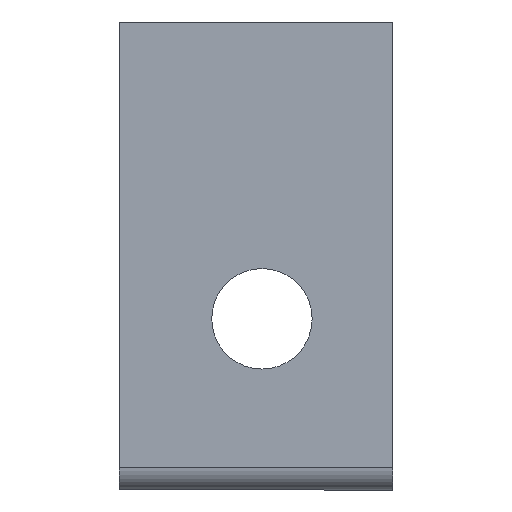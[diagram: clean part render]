
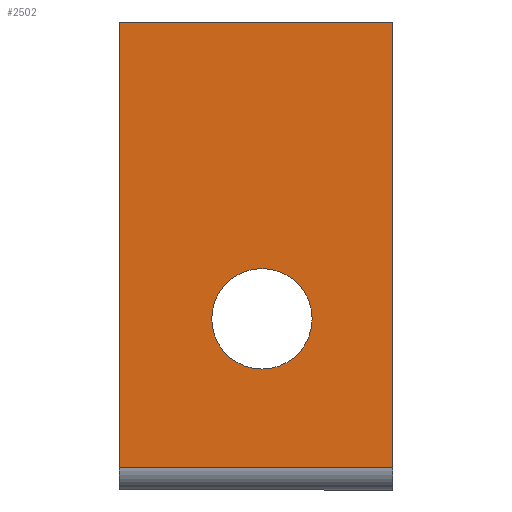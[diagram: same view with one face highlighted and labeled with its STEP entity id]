
A CAD part, front view. The second image highlights one B-rep face of the part: STEP entity #2502.
In plain terms, the highlighted planar face has unit normal (0, -1, 0).
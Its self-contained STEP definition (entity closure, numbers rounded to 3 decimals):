
#110 = ORIENTED_EDGE ( 'NONE', *, *, #2457, .T. ) ;
#112 = CARTESIAN_POINT ( 'NONE',  ( 0., -2., 0. ) ) ;
#117 = LINE ( 'NONE', #2035, #1406 ) ;
#124 = CARTESIAN_POINT ( 'NONE',  ( 31.302, -2., -76. ) ) ;
#264 = ORIENTED_EDGE ( 'NONE', *, *, #2898, .F. ) ;
#320 = DIRECTION ( 'NONE',  ( 1., 0., 0. ) ) ;
#349 = ORIENTED_EDGE ( 'NONE', *, *, #2708, .T. ) ;
#508 = ORIENTED_EDGE ( 'NONE', *, *, #2729, .F. ) ;
#538 = DIRECTION ( 'NONE',  ( 0., 1., 0. ) ) ;
#547 = CARTESIAN_POINT ( 'NONE',  ( 0., -2., 0. ) ) ;
#604 = VECTOR ( 'NONE', #3278, 1000. ) ;
#772 = FACE_BOUND ( 'NONE', #2561, .T. ) ;
#776 = DIRECTION ( 'NONE',  ( 0., 0., -1. ) ) ;
#808 = LINE ( 'NONE', #1793, #604 ) ;
#854 = LINE ( 'NONE', #112, #2277 ) ;
#949 = VERTEX_POINT ( 'NONE', #2819 ) ;
#993 = CARTESIAN_POINT ( 'NONE',  ( 31.302, -2., -65. ) ) ;
#1034 = VECTOR ( 'NONE', #320, 1000. ) ;
#1157 = DIRECTION ( 'NONE',  ( 0., 0., 1. ) ) ;
#1279 = ORIENTED_EDGE ( 'NONE', *, *, #1816, .T. ) ;
#1308 = VERTEX_POINT ( 'NONE', #547 ) ;
#1324 = DIRECTION ( 'NONE',  ( 0., 0., 1. ) ) ;
#1325 = CARTESIAN_POINT ( 'NONE',  ( 0., -2., 0. ) ) ;
#1362 = EDGE_CURVE ( 'NONE', #1308, #3051, #1626, .T. ) ;
#1406 = VECTOR ( 'NONE', #776, 1000. ) ;
#1561 = VERTEX_POINT ( 'NONE', #2680 ) ;
#1563 = PLANE ( 'NONE',  #3243 ) ;
#1626 = LINE ( 'NONE', #1325, #1034 ) ;
#1656 = VERTEX_POINT ( 'NONE', #124 ) ;
#1737 = VERTEX_POINT ( 'NONE', #3232 ) ;
#1756 = DIRECTION ( 'NONE',  ( 0., 1., 0. ) ) ;
#1793 = CARTESIAN_POINT ( 'NONE',  ( 0., -2., -97.487 ) ) ;
#1816 = EDGE_CURVE ( 'NONE', #1656, #949, #3140, .T. ) ;
#1830 = CARTESIAN_POINT ( 'NONE',  ( 31.302, -2., -65. ) ) ;
#1950 = CARTESIAN_POINT ( 'NONE',  ( 60., -2., 0. ) ) ;
#2035 = CARTESIAN_POINT ( 'NONE',  ( 60., -2., 0. ) ) ;
#2081 = DIRECTION ( 'NONE',  ( 0., -1., 0. ) ) ;
#2277 = VECTOR ( 'NONE', #2679, 1000. ) ;
#2328 = FACE_OUTER_BOUND ( 'NONE', #2337, .T. ) ;
#2337 = EDGE_LOOP ( 'NONE', ( #264, #349, #508, #2659 ) ) ;
#2457 = EDGE_CURVE ( 'NONE', #949, #1656, #2955, .T. ) ;
#2502 = ADVANCED_FACE ( 'NONE', ( #772, #2328 ), #1563, .T. ) ;
#2540 = DIRECTION ( 'NONE',  ( 0., 0., -1. ) ) ;
#2561 = EDGE_LOOP ( 'NONE', ( #110, #1279 ) ) ;
#2594 = CARTESIAN_POINT ( 'NONE',  ( 0., -2., 0. ) ) ;
#2659 = ORIENTED_EDGE ( 'NONE', *, *, #1362, .F. ) ;
#2679 = DIRECTION ( 'NONE',  ( 0., 0., 1. ) ) ;
#2680 = CARTESIAN_POINT ( 'NONE',  ( 0., -2., -97.487 ) ) ;
#2708 = EDGE_CURVE ( 'NONE', #1561, #1737, #808, .T. ) ;
#2729 = EDGE_CURVE ( 'NONE', #3051, #1737, #117, .T. ) ;
#2819 = CARTESIAN_POINT ( 'NONE',  ( 31.302, -2., -54. ) ) ;
#2898 = EDGE_CURVE ( 'NONE', #1561, #1308, #854, .T. ) ;
#2949 = AXIS2_PLACEMENT_3D ( 'NONE', #1830, #538, #1324 ) ;
#2955 = CIRCLE ( 'NONE', #2949, 11. ) ;
#2974 = AXIS2_PLACEMENT_3D ( 'NONE', #993, #1756, #1157 ) ;
#3051 = VERTEX_POINT ( 'NONE', #1950 ) ;
#3140 = CIRCLE ( 'NONE', #2974, 11. ) ;
#3232 = CARTESIAN_POINT ( 'NONE',  ( 60., -2., -97.487 ) ) ;
#3243 = AXIS2_PLACEMENT_3D ( 'NONE', #2594, #2081, #2540 ) ;
#3278 = DIRECTION ( 'NONE',  ( 1., 0., 0. ) ) ;
